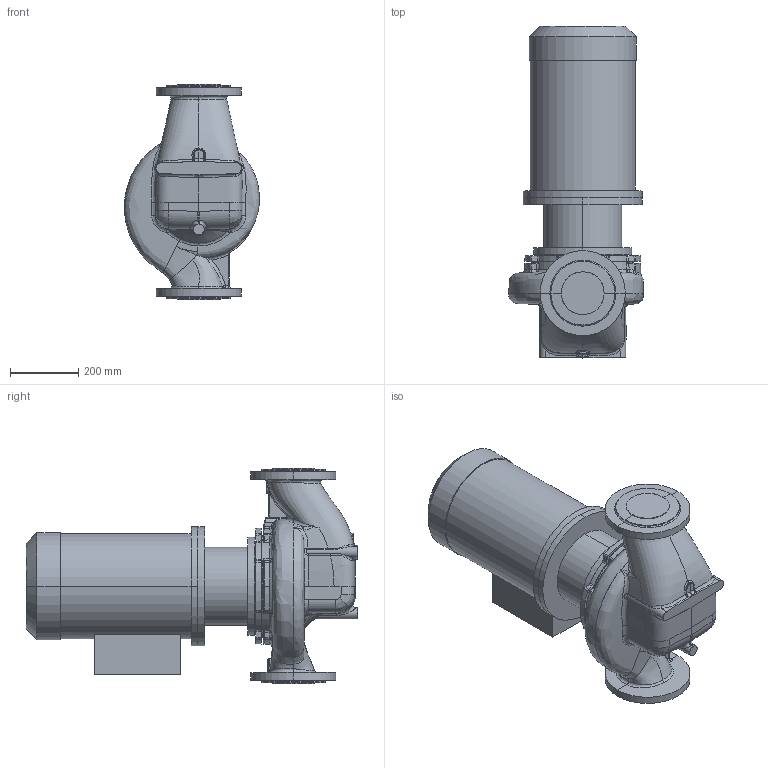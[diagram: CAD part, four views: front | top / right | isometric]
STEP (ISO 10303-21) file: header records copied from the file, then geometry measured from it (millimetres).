
FILE_DESCRIPTION (( 'STEP AP214' ), '1' );
FILE_NAME ('KRL 125-250-4-11.STEP', '2026-04-03T05:37:04', ( '' ), ( '' ), 'SwSTEP 2.0', 'SolidWorks 2016', '' );
FILE_SCHEMA (( 'AUTOMOTIVE_DESIGN' ));
Length unit declared in the file: millimetre
Products named in the file (1): KRL 125-250-4-11
Bounding box: 396.75 x 975.8 x 634 mm (x, y, z)
Volume: 82935097.9 mm3; surface area: 2176587.2 mm2
Topology: 4 solids, 4 shells, 545 faces, 1349 edges, 821 vertices
Faces by surface type: bspline 248, cylinder 114, plane 105, cone 46, torus 18, sphere 14
Entity records: 58067 total; most frequent: CARTESIAN_POINT 41356, ORIENTED_EDGE 2668, DIRECTION 1629, EDGE_CURVE 1334, VERTEX_POINT 820, AXIS2_PLACEMENT_3D 690, B_SPLINE_CURVE_WITH_KNOTS 626, EDGE_LOOP 566
